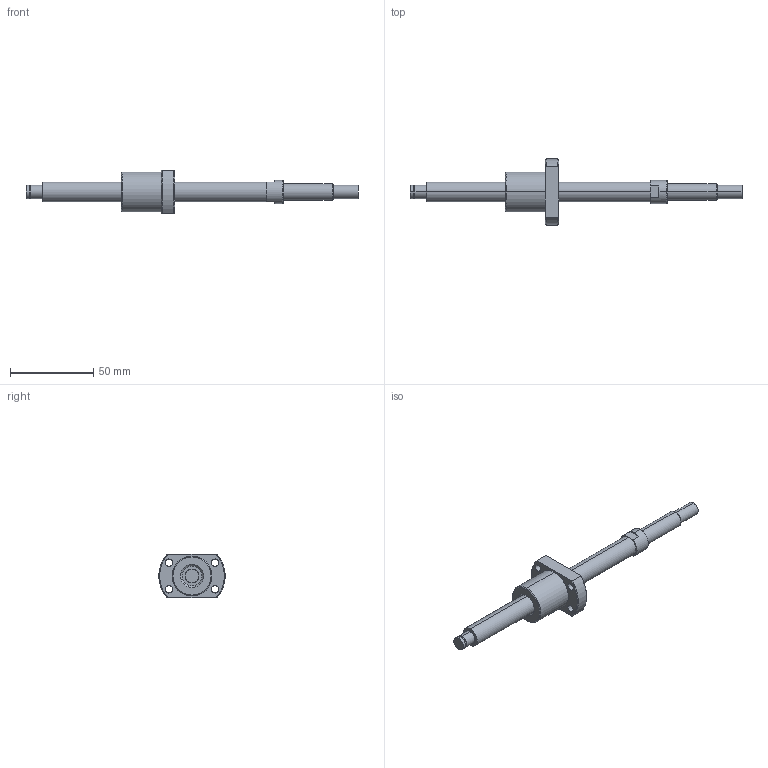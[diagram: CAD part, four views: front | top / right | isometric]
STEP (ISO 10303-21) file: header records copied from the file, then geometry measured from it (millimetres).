
FILE_DESCRIPTION (( 'STEP AP214' ), '1' );
FILE_NAME ('NSGF1205-130R200C_B_X.STEP', '2026-08-25T19:21:02', ( '' ), ( '' ), 'SwSTEP 2.0', 'SolidWorks 2025', '' );
FILE_SCHEMA (( 'AUTOMOTIVE_DESIGN' ));
Length unit declared in the file: millimetre
Products named in the file (3): NSGF1205-130R200C_B_X; NSG1205Z-130R20029_(T-S_T-B_2)-2_1^NSGF1205-130R200C_B_X; NSGF1205Z-1_3^NSGF1205-130R200C_B_X
Assembly tree (2 placements, depth 2):
  NSGF1205-130R200C_B_X
    NSG1205Z-130R20029_(T-S_T-B_2)-2_1^NSGF1205-130R200C_B_X
    NSGF1205Z-1_3^NSGF1205-130R200C_B_X
Bounding box: 200 x 39.88 x 26 mm (x, y, z)
Volume: 32868.5 mm3; surface area: 13511.9 mm2
Topology: 2 solids, 2 shells, 65 faces, 146 edges, 92 vertices
Faces by surface type: cylinder 30, plane 19, cone 12, torus 4
Entity records: 1974 total; most frequent: DIRECTION 362, CARTESIAN_POINT 332, ORIENTED_EDGE 292, AXIS2_PLACEMENT_3D 154, EDGE_CURVE 146, VERTEX_POINT 92, CIRCLE 84, EDGE_LOOP 82
